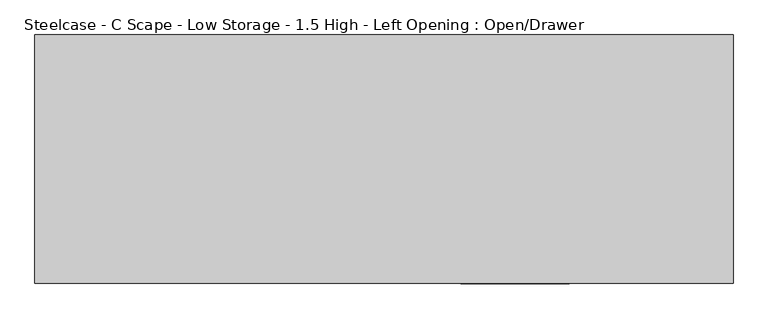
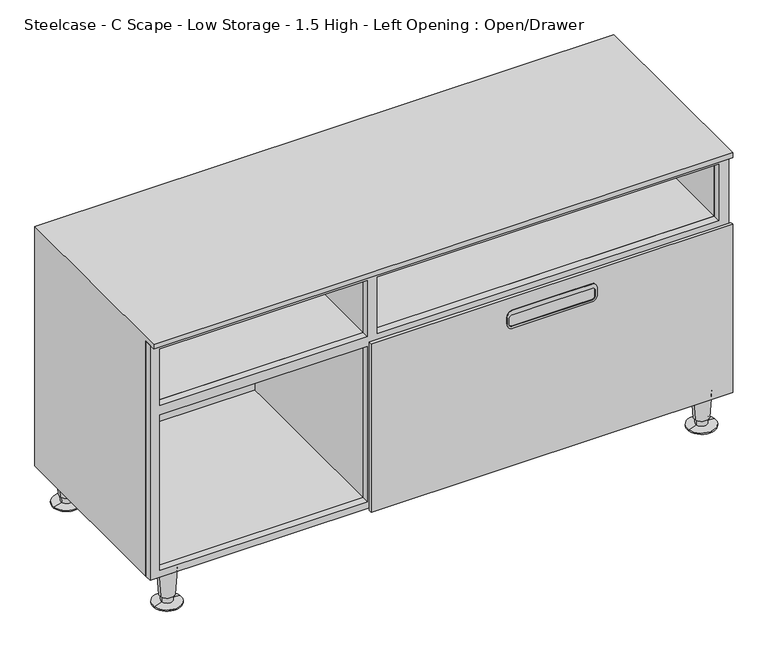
"""IFC4 building model written with IfcOpenShell, lengths in millimetres: furniture geometry, Steelcase - C Scape - Low Storage - 1.5 High - Left Opening : Open/Drawer."""

from ifc_helpers import new_model, si_unit, point, frame, frame_2d, origin, place, context, project, spatial, polyline, circle_curve, trimmed, segment, composite_curve, outline, extrude, faceted_brep, source, transform, mapped, element, save
from ifc_brep_helpers import plane_surface, cylinder_surface, revolved_surface, advanced_brep


def steelcase_c_scape_low_storage_1_5_high_left_opening_open_5148ce0a(model_context):
    return source(origin(), model_context, "Body", "SolidModel", [
        extrude(outline(polyline([(76.2, 0.0), (76.2, 1217.93), (599.4400097, 1217.93), (599.4400097, 0.0), (76.2, 0.0)]), holes=[polyline([(91.4201587, 20.700907), (436.8419, 20.700907), (436.8419, 457.2), (91.4201587, 457.2), (91.4201587, 20.700907)]), polyline([(583.5451587, 1195.959248), (458.7875121, 1195.959248), (458.7875121, 478.1549612), (583.5451587, 478.1549612), (583.5451587, 1195.959248)]), polyline([(458.7875121, 20.700907), (583.5451587, 20.700907), (583.5451587, 457.2), (458.7875121, 457.2), (458.7875121, 20.700907)]), polyline([(91.4201587, 1195.959248), (91.4201587, 478.1549612), (436.8419, 478.1549612), (436.8419, 1195.959248), (91.4201587, 1195.959248)])]), frame((0.0, -419.3540543, 0.0), z_axis=(0.0, 1.0, 0.0), x_axis=(0.0, 0.0, 1.0)), (0.0, 0.0, 1.0), 14.9860039),
        extrude(outline(composite_curve([segment(trimmed(circle_curve(frame_2d((409.5749879, 755.3322442)), 12.7), [point((422.2749879, 755.3322442))], [point((409.5749879, 742.6322442))], False, "CARTESIAN"), True, "CONTINUOUS"), segment(polyline([(409.5749879, 742.6322442), (394.970017, 742.6322442)]), True, "CONTINUOUS"), segment(trimmed(circle_curve(frame_2d((394.970017, 755.3322442)), 12.7), [point((394.970017, 742.6322442))], [point((382.270017, 755.3322442))], False, "CARTESIAN"), True, "CONTINUOUS"), segment(polyline([(382.270017, 755.3322442), (382.270017, 837.565), (382.270017, 919.7977558)]), True, "CONTINUOUS"), segment(trimmed(circle_curve(frame_2d((394.970017, 919.7977558)), 12.7), [point((382.270017, 919.7977558))], [point((394.970017, 932.4977558))], False, "CARTESIAN"), True, "CONTINUOUS"), segment(polyline([(394.970017, 932.4977558), (409.5749879, 932.4977558)]), True, "CONTINUOUS"), segment(trimmed(circle_curve(frame_2d((409.5749879, 919.7977558)), 12.7), [point((409.5749879, 932.4977558))], [point((422.2749879, 919.7977558))], False, "CARTESIAN"), True, "CONTINUOUS"), segment(polyline([(422.2749879, 919.7977558), (422.2749879, 837.565), (422.2749879, 755.3322442)]), True, "CONTINUOUS")], self_intersect=False), holes=[composite_curve([segment(trimmed(circle_curve(frame_2d((406.1460063, 753.8098565)), 6.35), [point((406.1460063, 747.4598565))], [point((412.4960063, 753.8098565))], True, "CARTESIAN"), True, "CONTINUOUS"), segment(polyline([(412.4960063, 753.8098565), (412.4960063, 837.565), (412.4960063, 921.3201435)]), True, "CONTINUOUS"), segment(trimmed(circle_curve(frame_2d((406.1460063, 921.3201435)), 6.35), [point((412.4960063, 921.3201435))], [point((406.1460063, 927.6701435))], True, "CARTESIAN"), True, "CONTINUOUS"), segment(polyline([(406.1460063, 927.6701435), (393.4459942, 927.6701435)]), True, "CONTINUOUS"), segment(trimmed(circle_curve(frame_2d((393.4459942, 921.3201435)), 6.35), [point((393.4459942, 927.6701435))], [point((387.0959942, 921.3201435))], True, "CARTESIAN"), True, "CONTINUOUS"), segment(polyline([(387.0959942, 921.3201435), (387.0959942, 837.565), (387.0959942, 753.8098565)]), True, "CONTINUOUS"), segment(trimmed(circle_curve(frame_2d((393.4459942, 753.8098565)), 6.35), [point((387.0959942, 753.8098565))], [point((393.4459942, 747.4598565))], True, "CARTESIAN"), True, "CONTINUOUS"), segment(polyline([(393.4459942, 747.4598565), (406.1460063, 747.4598565)]), True, "CONTINUOUS")], self_intersect=False)]), frame((0.0, -434.34, 0.0), z_axis=(0.0, 1.0, 0.0), x_axis=(0.0, 0.0, 1.0)), (0.0, 0.0, 1.0), 6.35),
        advanced_brep(
        [(1190.0494568, -31.5218435, 76.2), (1152.3877179, -37.2840847, 76.2), (1171.2185874, -34.4029641, 76.2), (1186.0991088, -32.1262463, 19.05), (1156.3380659, -36.6796819, 19.05), (1183.6695219, -32.4979728, 19.05), (1158.7676529, -36.3079555, 19.05), (1182.9807524, -32.6033544, 5.7545598), (1159.4564224, -36.2025738, 5.7545598), (1200.3296359, -29.9489775, 2.5119506), (1142.1075389, -38.8569507, 2.5119506), (1200.3296359, -29.9489775, 0.0), (1142.1075389, -38.8569507, 0.0), (1171.2185874, -34.4029641, 0.0)],
        [
            (0, 1, circle_curve(frame((1171.2185874, -34.4029641, 76.2), z_axis=(0.0, 0.0, 1.0), x_axis=(0.0, -1.0, 0.0)), 19.05)),
            (1, 2),
            (2, 0),
            (1, 0, circle_curve(frame((1171.2185874, -34.4029641, 76.2), z_axis=(0.0, 0.0, 1.0), x_axis=(0.0, -1.0, 0.0)), 19.05)),
            (3, 4, circle_curve(frame((1171.2185874, -34.4029641, 19.05), z_axis=(0.0, 0.0, 1.0), x_axis=(0.0, -1.0, 0.0)), 15.0536827)),
            (4, 1),
            (0, 3),
            (4, 3, circle_curve(frame((1171.2185874, -34.4029641, 19.05), z_axis=(0.0, 0.0, 1.0), x_axis=(0.0, -1.0, 0.0)), 15.0536827)),
            (5, 6, circle_curve(frame((1171.2185874, -34.4029641, 19.05), z_axis=(0.0, 0.0, 1.0), x_axis=(0.0, -1.0, 0.0)), 12.5958232)),
            (6, 4),
            (3, 5),
            (6, 5, circle_curve(frame((1171.2185874, -34.4029641, 19.05), z_axis=(0.0, 0.0, 1.0), x_axis=(0.0, -1.0, 0.0)), 12.5958232)),
            (7, 8, circle_curve(frame((1171.2185874, -34.4029641, 5.7545598), z_axis=(0.0, 0.0, 1.0), x_axis=(0.0, -1.0, 0.0)), 11.8990387)),
            (8, 6),
            (5, 7),
            (8, 7, circle_curve(frame((1171.2185874, -34.4029641, 5.7545598), z_axis=(0.0, 0.0, 1.0), x_axis=(0.0, -1.0, 0.0)), 11.8990387)),
            (9, 10, circle_curve(frame((1171.2185874, -34.4029641, 2.5119506), z_axis=(0.0, 0.0, 1.0), x_axis=(0.0, -1.0, 0.0)), 29.4498071)),
            (10, 8),
            (7, 9),
            (10, 9, circle_curve(frame((1171.2185874, -34.4029641, 2.5119506), z_axis=(0.0, 0.0, 1.0), x_axis=(0.0, -1.0, 0.0)), 29.4498071)),
            (11, 12, circle_curve(frame((1171.2185874, -34.4029641, 0.0), z_axis=(0.0, 0.0, 1.0), x_axis=(0.0, -1.0, 0.0)), 29.4498071)),
            (12, 10),
            (9, 11),
            (12, 11, circle_curve(frame((1171.2185874, -34.4029641, 0.0), z_axis=(0.0, 0.0, 1.0), x_axis=(0.0, -1.0, 0.0)), 29.4498071)),
            (13, 12),
            (11, 13),
        ],
        [
            plane_surface(frame((1171.2185874, -34.4029641, 76.2), z_axis=(0.0, 0.0, 1.0), x_axis=(0.0, -1.0, 0.0))),
            revolved_surface(polyline([(1171.2185874, -53.4529641, 76.2), (1171.2185874, -49.4566468, 19.05)]), (1171.2185874, -34.4029641, 25.4), (0.0, 0.0, -1.0)),
            plane_surface(frame((1171.2185874, -34.4029641, 19.05), z_axis=(0.0, 0.0, -1.0), x_axis=(0.0, -1.0, 0.0))),
            revolved_surface(polyline([(1171.2185874, -46.9987873, 19.05), (1171.2185874, -46.3020028, 5.7545598)]), (1171.2185874, -34.4029641, 25.4), (0.0, 0.0, -1.0)),
            revolved_surface(polyline([(1171.2185874, -46.3020028, 5.7545598), (1171.2185874, -63.8527712, 2.5119506)]), (1171.2185874, -34.4029641, 25.4), (0.0, 0.0, -1.0)),
            cylinder_surface(frame((1171.2185874, -34.4029641, 25.4), z_axis=(0.0, 0.0, -1.0), x_axis=(0.0, -1.0, 0.0)), 29.4498071),
            plane_surface(frame((1171.2185874, -34.4029641, 0.0), z_axis=(0.0, 0.0, -1.0), x_axis=(0.0, -1.0, 0.0))),
        ],
        [
            (0, [[1, 2, 3]]),
            (0, [[4, -3, -2]]),
            (1, [[5, 6, -1, 7]]),
            (1, [[8, -7, -4, -6]]),
            (2, [[9, 10, -5, 11]]),
            (2, [[12, -11, -8, -10]]),
            (3, [[13, 14, -9, 15]]),
            (3, [[16, -15, -12, -14]]),
            (4, [[17, 18, -13, 19]]),
            (4, [[20, -19, -16, -18]]),
            (5, [[21, 22, -17, 23]]),
            (5, [[24, -23, -20, -22]]),
            (6, [[25, -21, 26]]),
            (6, [[-26, -24, -25]]),
        ],
    ),
        advanced_brep(
        [(1190.0494568, -397.1702762, 76.2), (1152.3877179, -402.9325174, 76.2), (1171.2185874, -400.0513968, 76.2), (1186.0991088, -397.774679, 19.05), (1156.3380659, -402.3281146, 19.05), (1183.6695219, -398.1464055, 19.05), (1158.7676529, -401.9563882, 19.05), (1182.9807524, -398.2517871, 5.7545598), (1159.4564224, -401.8510065, 5.7545598), (1200.3296359, -395.5974102, 2.5119506), (1142.1075389, -404.5053834, 2.5119506), (1200.3296359, -395.5974102, 0.0), (1142.1075389, -404.5053834, 0.0), (1171.2185874, -400.0513968, 0.0)],
        [
            (0, 1, circle_curve(frame((1171.2185874, -400.0513968, 76.2), z_axis=(0.0, 0.0, 1.0), x_axis=(0.0, -1.0, 0.0)), 19.05)),
            (1, 2),
            (2, 0),
            (1, 0, circle_curve(frame((1171.2185874, -400.0513968, 76.2), z_axis=(0.0, 0.0, 1.0), x_axis=(0.0, -1.0, 0.0)), 19.05)),
            (3, 4, circle_curve(frame((1171.2185874, -400.0513968, 19.05), z_axis=(0.0, 0.0, 1.0), x_axis=(0.0, -1.0, 0.0)), 15.0536827)),
            (4, 1),
            (0, 3),
            (4, 3, circle_curve(frame((1171.2185874, -400.0513968, 19.05), z_axis=(0.0, 0.0, 1.0), x_axis=(0.0, -1.0, 0.0)), 15.0536827)),
            (5, 6, circle_curve(frame((1171.2185874, -400.0513968, 19.05), z_axis=(0.0, 0.0, 1.0), x_axis=(0.0, -1.0, 0.0)), 12.5958232)),
            (6, 4),
            (3, 5),
            (6, 5, circle_curve(frame((1171.2185874, -400.0513968, 19.05), z_axis=(0.0, 0.0, 1.0), x_axis=(0.0, -1.0, 0.0)), 12.5958232)),
            (7, 8, circle_curve(frame((1171.2185874, -400.0513968, 5.7545598), z_axis=(0.0, 0.0, 1.0), x_axis=(0.0, -1.0, 0.0)), 11.8990387)),
            (8, 6),
            (5, 7),
            (8, 7, circle_curve(frame((1171.2185874, -400.0513968, 5.7545598), z_axis=(0.0, 0.0, 1.0), x_axis=(0.0, -1.0, 0.0)), 11.8990387)),
            (9, 10, circle_curve(frame((1171.2185874, -400.0513968, 2.5119506), z_axis=(0.0, 0.0, 1.0), x_axis=(0.0, -1.0, 0.0)), 29.4498071)),
            (10, 8),
            (7, 9),
            (10, 9, circle_curve(frame((1171.2185874, -400.0513968, 2.5119506), z_axis=(0.0, 0.0, 1.0), x_axis=(0.0, -1.0, 0.0)), 29.4498071)),
            (11, 12, circle_curve(frame((1171.2185874, -400.0513968, 0.0), z_axis=(0.0, 0.0, 1.0), x_axis=(0.0, -1.0, 0.0)), 29.4498071)),
            (12, 10),
            (9, 11),
            (12, 11, circle_curve(frame((1171.2185874, -400.0513968, 0.0), z_axis=(0.0, 0.0, 1.0), x_axis=(0.0, -1.0, 0.0)), 29.4498071)),
            (13, 12),
            (11, 13),
        ],
        [
            plane_surface(frame((1171.2185874, -400.0513968, 76.2), z_axis=(0.0, 0.0, 1.0), x_axis=(0.0, -1.0, 0.0))),
            revolved_surface(polyline([(1171.2185874, -419.1013968, 76.2), (1171.2185874, -415.1050795, 19.05)]), (1171.2185874, -400.0513968, 25.4), (0.0, 0.0, -1.0)),
            plane_surface(frame((1171.2185874, -400.0513968, 19.05), z_axis=(0.0, 0.0, -1.0), x_axis=(0.0, -1.0, 0.0))),
            revolved_surface(polyline([(1171.2185874, -412.64722, 19.05), (1171.2185874, -411.9504355, 5.7545598)]), (1171.2185874, -400.0513968, 25.4), (0.0, 0.0, -1.0)),
            revolved_surface(polyline([(1171.2185874, -411.9504355, 5.7545598), (1171.2185874, -429.5012039, 2.5119506)]), (1171.2185874, -400.0513968, 25.4), (0.0, 0.0, -1.0)),
            cylinder_surface(frame((1171.2185874, -400.0513968, 25.4), z_axis=(0.0, 0.0, -1.0), x_axis=(0.0, -1.0, 0.0)), 29.4498071),
            plane_surface(frame((1171.2185874, -400.0513968, 0.0), z_axis=(0.0, 0.0, -1.0), x_axis=(0.0, -1.0, 0.0))),
        ],
        [
            (0, [[1, 2, 3]]),
            (0, [[4, -3, -2]]),
            (1, [[5, 6, -1, 7]]),
            (1, [[8, -7, -4, -6]]),
            (2, [[9, 10, -5, 11]]),
            (2, [[12, -11, -8, -10]]),
            (3, [[13, 14, -9, 15]]),
            (3, [[16, -15, -12, -14]]),
            (4, [[17, 18, -13, 19]]),
            (4, [[20, -19, -16, -18]]),
            (5, [[21, 22, -17, 23]]),
            (5, [[24, -23, -20, -22]]),
            (6, [[25, -21, 26]]),
            (6, [[-26, -24, -25]]),
        ],
    ),
        advanced_brep(
        [(65.6621195, -397.1702762, 76.2), (28.0003805, -402.9325174, 76.2), (46.83125, -400.0513968, 76.2), (61.7117714, -397.774679, 19.05), (31.9507286, -402.3281146, 19.05), (59.2821845, -398.1464055, 19.05), (34.3803155, -401.9563882, 19.05), (58.593415, -398.2517871, 5.7545598), (35.069085, -401.8510065, 5.7545598), (75.9422985, -395.5974102, 2.5119506), (17.7202015, -404.5053834, 2.5119506), (75.9422985, -395.5974102, 0.0), (17.7202015, -404.5053834, 0.0), (46.83125, -400.0513968, 0.0)],
        [
            (0, 1, circle_curve(frame((46.83125, -400.0513968, 76.2), z_axis=(0.0, 0.0, 1.0), x_axis=(0.0, -1.0, 0.0)), 19.05)),
            (1, 2),
            (2, 0),
            (1, 0, circle_curve(frame((46.83125, -400.0513968, 76.2), z_axis=(0.0, 0.0, 1.0), x_axis=(0.0, -1.0, 0.0)), 19.05)),
            (3, 4, circle_curve(frame((46.83125, -400.0513968, 19.05), z_axis=(0.0, 0.0, 1.0), x_axis=(0.0, -1.0, 0.0)), 15.0536827)),
            (4, 1),
            (0, 3),
            (4, 3, circle_curve(frame((46.83125, -400.0513968, 19.05), z_axis=(0.0, 0.0, 1.0), x_axis=(0.0, -1.0, 0.0)), 15.0536827)),
            (5, 6, circle_curve(frame((46.83125, -400.0513968, 19.05), z_axis=(0.0, 0.0, 1.0), x_axis=(0.0, -1.0, 0.0)), 12.5958232)),
            (6, 4),
            (3, 5),
            (6, 5, circle_curve(frame((46.83125, -400.0513968, 19.05), z_axis=(0.0, 0.0, 1.0), x_axis=(0.0, -1.0, 0.0)), 12.5958232)),
            (7, 8, circle_curve(frame((46.83125, -400.0513968, 5.7545598), z_axis=(0.0, 0.0, 1.0), x_axis=(0.0, -1.0, 0.0)), 11.8990387)),
            (8, 6),
            (5, 7),
            (8, 7, circle_curve(frame((46.83125, -400.0513968, 5.7545598), z_axis=(0.0, 0.0, 1.0), x_axis=(0.0, -1.0, 0.0)), 11.8990387)),
            (9, 10, circle_curve(frame((46.83125, -400.0513968, 2.5119506), z_axis=(0.0, 0.0, 1.0), x_axis=(0.0, -1.0, 0.0)), 29.4498071)),
            (10, 8),
            (7, 9),
            (10, 9, circle_curve(frame((46.83125, -400.0513968, 2.5119506), z_axis=(0.0, 0.0, 1.0), x_axis=(0.0, -1.0, 0.0)), 29.4498071)),
            (11, 12, circle_curve(frame((46.83125, -400.0513968, 0.0), z_axis=(0.0, 0.0, 1.0), x_axis=(0.0, -1.0, 0.0)), 29.4498071)),
            (12, 10),
            (9, 11),
            (12, 11, circle_curve(frame((46.83125, -400.0513968, 0.0), z_axis=(0.0, 0.0, 1.0), x_axis=(0.0, -1.0, 0.0)), 29.4498071)),
            (13, 12),
            (11, 13),
        ],
        [
            plane_surface(frame((46.83125, -400.0513968, 76.2), z_axis=(0.0, 0.0, 1.0), x_axis=(0.0, -1.0, 0.0))),
            revolved_surface(polyline([(46.83125, -419.1013968, 76.2), (46.83125, -415.1050795, 19.05)]), (46.83125, -400.0513968, 25.4), (0.0, 0.0, -1.0)),
            plane_surface(frame((46.83125, -400.0513968, 19.05), z_axis=(0.0, 0.0, -1.0), x_axis=(0.0, -1.0, 0.0))),
            revolved_surface(polyline([(46.83125, -412.64722, 19.05), (46.83125, -411.9504355, 5.7545598)]), (46.83125, -400.0513968, 25.4), (0.0, 0.0, -1.0)),
            revolved_surface(polyline([(46.83125, -411.9504355, 5.7545598), (46.83125, -429.5012039, 2.5119506)]), (46.83125, -400.0513968, 25.4), (0.0, 0.0, -1.0)),
            cylinder_surface(frame((46.83125, -400.0513968, 25.4), z_axis=(0.0, 0.0, -1.0), x_axis=(0.0, -1.0, 0.0)), 29.4498071),
            plane_surface(frame((46.83125, -400.0513968, 0.0), z_axis=(0.0, 0.0, -1.0), x_axis=(0.0, -1.0, 0.0))),
        ],
        [
            (0, [[1, 2, 3]]),
            (0, [[4, -3, -2]]),
            (1, [[5, 6, -1, 7]]),
            (1, [[8, -7, -4, -6]]),
            (2, [[9, 10, -5, 11]]),
            (2, [[12, -11, -8, -10]]),
            (3, [[13, 14, -9, 15]]),
            (3, [[16, -15, -12, -14]]),
            (4, [[17, 18, -13, 19]]),
            (4, [[20, -19, -16, -18]]),
            (5, [[21, 22, -17, 23]]),
            (5, [[24, -23, -20, -22]]),
            (6, [[25, -21, 26]]),
            (6, [[-26, -24, -25]]),
        ],
    ),
        advanced_brep(
        [(65.6621195, -31.5218435, 76.2), (28.0003805, -37.2840847, 76.2), (46.83125, -34.4029641, 76.2), (61.7117714, -32.1262463, 19.05), (31.9507286, -36.6796819, 19.05), (59.2821845, -32.4979728, 19.05), (34.3803155, -36.3079555, 19.05), (58.593415, -32.6033544, 5.7545598), (35.069085, -36.2025738, 5.7545598), (75.9422985, -29.9489775, 2.5119506), (17.7202015, -38.8569507, 2.5119506), (75.9422985, -29.9489775, 0.0), (17.7202015, -38.8569507, 0.0), (46.83125, -34.4029641, 0.0)],
        [
            (0, 1, circle_curve(frame((46.83125, -34.4029641, 76.2), z_axis=(0.0, 0.0, 1.0), x_axis=(0.0, -1.0, 0.0)), 19.05)),
            (1, 2),
            (2, 0),
            (1, 0, circle_curve(frame((46.83125, -34.4029641, 76.2), z_axis=(0.0, 0.0, 1.0), x_axis=(0.0, -1.0, 0.0)), 19.05)),
            (3, 4, circle_curve(frame((46.83125, -34.4029641, 19.05), z_axis=(0.0, 0.0, 1.0), x_axis=(0.0, -1.0, 0.0)), 15.0536827)),
            (4, 1),
            (0, 3),
            (4, 3, circle_curve(frame((46.83125, -34.4029641, 19.05), z_axis=(0.0, 0.0, 1.0), x_axis=(0.0, -1.0, 0.0)), 15.0536827)),
            (5, 6, circle_curve(frame((46.83125, -34.4029641, 19.05), z_axis=(0.0, 0.0, 1.0), x_axis=(0.0, -1.0, 0.0)), 12.5958232)),
            (6, 4),
            (3, 5),
            (6, 5, circle_curve(frame((46.83125, -34.4029641, 19.05), z_axis=(0.0, 0.0, 1.0), x_axis=(0.0, -1.0, 0.0)), 12.5958232)),
            (7, 8, circle_curve(frame((46.83125, -34.4029641, 5.7545598), z_axis=(0.0, 0.0, 1.0), x_axis=(0.0, -1.0, 0.0)), 11.8990387)),
            (8, 6),
            (5, 7),
            (8, 7, circle_curve(frame((46.83125, -34.4029641, 5.7545598), z_axis=(0.0, 0.0, 1.0), x_axis=(0.0, -1.0, 0.0)), 11.8990387)),
            (9, 10, circle_curve(frame((46.83125, -34.4029641, 2.5119506), z_axis=(0.0, 0.0, 1.0), x_axis=(0.0, -1.0, 0.0)), 29.4498071)),
            (10, 8),
            (7, 9),
            (10, 9, circle_curve(frame((46.83125, -34.4029641, 2.5119506), z_axis=(0.0, 0.0, 1.0), x_axis=(0.0, -1.0, 0.0)), 29.4498071)),
            (11, 12, circle_curve(frame((46.83125, -34.4029641, 0.0), z_axis=(0.0, 0.0, 1.0), x_axis=(0.0, -1.0, 0.0)), 29.4498071)),
            (12, 10),
            (9, 11),
            (12, 11, circle_curve(frame((46.83125, -34.4029641, 0.0), z_axis=(0.0, 0.0, 1.0), x_axis=(0.0, -1.0, 0.0)), 29.4498071)),
            (13, 12),
            (11, 13),
        ],
        [
            plane_surface(frame((46.83125, -34.4029641, 76.2), z_axis=(0.0, 0.0, 1.0), x_axis=(0.0, -1.0, 0.0))),
            revolved_surface(polyline([(46.83125, -53.4529641, 76.2), (46.83125, -49.4566468, 19.05)]), (46.83125, -34.4029641, 25.4), (0.0, 0.0, -1.0)),
            plane_surface(frame((46.83125, -34.4029641, 19.05), z_axis=(0.0, 0.0, -1.0), x_axis=(0.0, -1.0, 0.0))),
            revolved_surface(polyline([(46.83125, -46.9987873, 19.05), (46.83125, -46.3020028, 5.7545598)]), (46.83125, -34.4029641, 25.4), (0.0, 0.0, -1.0)),
            revolved_surface(polyline([(46.83125, -46.3020028, 5.7545598), (46.83125, -63.8527712, 2.5119506)]), (46.83125, -34.4029641, 25.4), (0.0, 0.0, -1.0)),
            cylinder_surface(frame((46.83125, -34.4029641, 25.4), z_axis=(0.0, 0.0, -1.0), x_axis=(0.0, -1.0, 0.0)), 29.4498071),
            plane_surface(frame((46.83125, -34.4029641, 0.0), z_axis=(0.0, 0.0, -1.0), x_axis=(0.0, -1.0, 0.0))),
        ],
        [
            (0, [[1, 2, 3]]),
            (0, [[4, -3, -2]]),
            (1, [[5, 6, -1, 7]]),
            (1, [[8, -7, -4, -6]]),
            (2, [[9, 10, -5, 11]]),
            (2, [[12, -11, -8, -10]]),
            (3, [[13, 14, -9, 15]]),
            (3, [[16, -15, -12, -14]]),
            (4, [[17, 18, -13, 19]]),
            (4, [[20, -19, -16, -18]]),
            (5, [[21, 22, -17, 23]]),
            (5, [[24, -23, -20, -22]]),
            (6, [[25, -21, 26]]),
            (6, [[-26, -24, -25]]),
        ],
    ),
        faceted_brep([(0.0, 0.0, 76.2), (0.0, -404.3680504, 76.2), (0.0, -404.3680504, 599.4400097), (0.0, -433.07, 599.4400097), (0.0, -433.07, 609.6), (0.0, 0.0, 609.6), (1217.93, -404.3680504, 76.2), (1217.93, -404.3680504, 599.4400097), (1195.959248, -404.3680504, 599.4400097), (1195.959248, -404.3680504, 458.7875121), (463.5487203, -404.3680504, 458.7875121), (463.5487203, -404.3680504, 599.4400097), (457.2, -404.3680504, 599.4400097), (457.2, -404.3680504, 458.7875121), (20.700907, -404.3680504, 458.7875121), (20.700907, -404.3680504, 599.4400097), (1195.959248, -404.3680504, 91.4201587), (463.5487203, -404.3680504, 91.4201587), (463.5487203, -404.3680504, 436.8419), (1195.959248, -404.3680504, 436.8419), (457.2, -404.3680504, 91.4201587), (20.700907, -404.3680504, 91.4201587), (20.700907, -404.3680504, 436.8419), (457.2, -404.3680504, 436.8419), (20.700907, -9.525, 91.4201587), (20.700907, -9.525, 436.8419), (20.700907, -9.525, 458.7875121), (20.700907, -9.525, 599.4400097), (457.2, -9.525, 91.4201587), (457.2, -9.525, 436.8419), (457.2, -9.525, 458.7875121), (457.2, -9.525, 599.4400097), (463.5487203, -9.525, 91.4201587), (463.5487203, -9.525, 436.8419), (463.5487203, -9.525, 458.7875121), (463.5487203, -9.525, 599.4400097), (1195.959248, -9.525, 91.4201587), (1195.959248, -9.525, 436.8419), (1195.959248, -9.525, 458.7875121), (1195.959248, -9.525, 599.4400097), (1217.93, 0.0, 76.2), (1217.93, 0.0, 609.6), (1217.93, -433.07, 609.6), (1217.93, -433.07, 599.4400097)], [[[0, 1, 2, 3, 4, 5]], [[1, 6, 7, 8, 9, 10, 11, 12, 13, 14, 15, 2], [16, 17, 18, 19], [20, 21, 22, 23]], [[21, 24, 25, 22]], [[14, 26, 27, 15]], [[24, 28, 29, 25]], [[26, 30, 31, 27]], [[28, 20, 23, 29]], [[30, 13, 12, 31]], [[17, 32, 33, 18]], [[10, 34, 35, 11]], [[32, 36, 37, 33]], [[34, 38, 39, 35]], [[36, 16, 19, 37]], [[38, 9, 8, 39]], [[6, 40, 41, 42, 43, 7]], [[41, 40, 0, 5]], [[17, 16, 36, 32]], [[21, 20, 28, 24]], [[0, 40, 6, 1]], [[10, 9, 38, 34]], [[14, 13, 30, 26]], [[19, 18, 33, 37]], [[23, 22, 25, 29]], [[5, 4, 42, 41]], [[43, 3, 2, 15, 27, 31, 12, 11, 35, 39, 8, 7]], [[42, 4, 3, 43]]]),
        extrude(outline(polyline([(457.2, -426.7186111), (1217.93, -426.7186111), (1217.93, -433.07), (457.2, -433.07), (457.2, -426.7186111)])), frame((0.0, 0.0, 76.2), z_axis=(0.0, 0.0, 1.0), x_axis=(1.0, 0.0, 0.0)), (0.0, 0.0, 1.0), 374.6499879),
    ])


if __name__ == "__main__":
    model = new_model("IFC4")
    model_context = context("Model", 3, world=origin())
    ifc_project = project(units=[si_unit("LENGTHUNIT", "METRE", prefix="MILLI")], contexts=[model_context])
    site = spatial("IfcSite", under=ifc_project)
    building = spatial("IfcBuilding", under=site)
    placement = place(None, origin())
    steelcase_c_scape_low_storage_1_5_high_left_opening_open_shape = steelcase_c_scape_low_storage_1_5_high_left_opening_open_5148ce0a(model_context)
    element("IfcFurniture", 1, ObjectType="Steelcase - C Scape - Low Storage - 1.5 High - Left Opening : Open/Drawer", at=placement, inside=building, context=model_context, shape_type="MappedRepresentation", body=[
        mapped(steelcase_c_scape_low_storage_1_5_high_left_opening_open_shape, transform((0.0, 0.0, 0.0), x_axis=(1.0, 0.0, 0.0), y_axis=(0.0, 1.0, 0.0), z_axis=(0.0, 0.0, 1.0))),
    ])
    save(model, "model.ifc")
